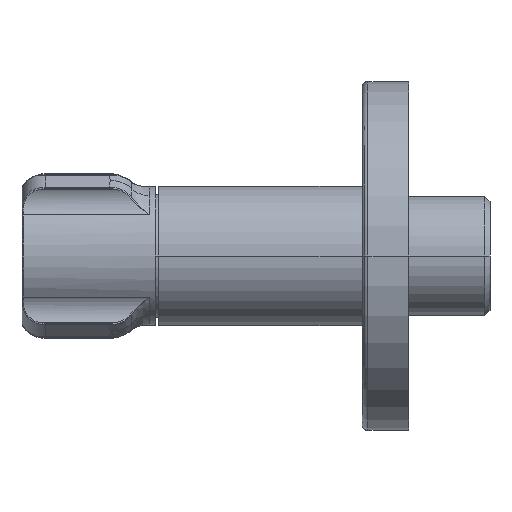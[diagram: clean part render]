
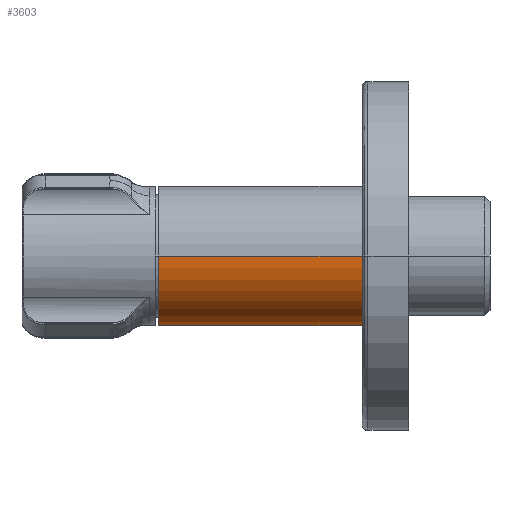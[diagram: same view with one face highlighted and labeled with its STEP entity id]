
A CAD part, left-side view. The second image highlights one B-rep face of the part: STEP entity #3603.
In plain terms, the highlighted cylindrical face has radius 12 mm (diameter 24 mm), a partial arc.
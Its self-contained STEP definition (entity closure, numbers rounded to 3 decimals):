
#577=CARTESIAN_POINT('',(12.,26.999,0.));
#578=CARTESIAN_POINT('',(12.,26.999,-0.334));
#579=CARTESIAN_POINT('',(11.972,27.048,-1.025));
#580=CARTESIAN_POINT('',(11.827,27.303,-2.134));
#581=CARTESIAN_POINT('',(11.568,27.76,-3.261));
#582=CARTESIAN_POINT('',(11.179,28.462,-4.424));
#583=CARTESIAN_POINT('',(10.634,29.476,-5.613));
#584=CARTESIAN_POINT('',(9.968,30.782,-6.718));
#585=CARTESIAN_POINT('',(9.295,32.22,-7.612));
#586=CARTESIAN_POINT('',(8.705,33.638,-8.272));
#587=CARTESIAN_POINT('',(8.217,35.01,-8.752));
#588=CARTESIAN_POINT('',(7.84,36.335,-9.088));
#589=CARTESIAN_POINT('',(7.581,37.576,-9.303));
#590=CARTESIAN_POINT('',(7.423,38.808,-9.429));
#591=CARTESIAN_POINT('',(7.39,39.606,-9.455));
#592=CARTESIAN_POINT('',(7.39,40.,-9.455));
#594=CARTESIAN_POINT('',(7.39,40.,-9.455));
#595=CARTESIAN_POINT('',(7.39,40.386,-9.455));
#596=CARTESIAN_POINT('',(7.422,41.193,-9.43));
#597=CARTESIAN_POINT('',(7.59,42.504,-9.296));
#598=CARTESIAN_POINT('',(7.902,43.929,-9.035));
#599=CARTESIAN_POINT('',(8.359,45.43,-8.62));
#600=CARTESIAN_POINT('',(8.961,47.011,-8.001));
#601=CARTESIAN_POINT('',(9.652,48.562,-7.161));
#602=CARTESIAN_POINT('',(10.31,49.896,-6.179));
#603=CARTESIAN_POINT('',(10.866,50.959,-5.137));
#604=CARTESIAN_POINT('',(11.312,51.779,-4.06));
#605=CARTESIAN_POINT('',(11.644,52.375,-2.971));
#606=CARTESIAN_POINT('',(11.863,52.761,-1.906));
#607=CARTESIAN_POINT('',(11.979,52.963,-0.901));
#608=CARTESIAN_POINT('',(12.,53.001,-0.29));
#609=CARTESIAN_POINT('',(12.,53.001,0.));
#611=DIRECTION('',(0.,1.,0.));
#612=VECTOR('',#611,3.999);
#613=CARTESIAN_POINT('',(12.,53.001,0.));
#614=LINE('',#613,#612);
#615=DIRECTION('',(0.,1.,0.));
#616=VECTOR('',#615,35.);
#617=CARTESIAN_POINT('',(-12.,22.,0.));
#618=LINE('',#617,#616);
#619=CARTESIAN_POINT('',(0.,22.,0.));
#620=DIRECTION('',(0.,1.,0.));
#621=DIRECTION('',(1.,0.,0.));
#622=AXIS2_PLACEMENT_3D('',#619,#620,#621);
#624=DIRECTION('',(0.,1.,0.));
#625=VECTOR('',#624,4.999);
#626=CARTESIAN_POINT('',(12.,22.,0.));
#627=LINE('',#626,#625);
#1849=CARTESIAN_POINT('',(0.,57.,0.));
#1850=DIRECTION('',(0.,1.,0.));
#1851=DIRECTION('',(1.,0.,0.));
#1852=AXIS2_PLACEMENT_3D('',#1849,#1850,#1851);
#1912=CARTESIAN_POINT('',(12.,53.001,0.));
#1913=VERTEX_POINT('',#1912);
#1916=CARTESIAN_POINT('',(12.,26.999,
0.));
#1917=VERTEX_POINT('',#1916);
#1918=CARTESIAN_POINT('',(-12.,22.,0.));
#1919=CARTESIAN_POINT('',(-12.,57.,0.));
#1920=VERTEX_POINT('',#1918);
#1921=VERTEX_POINT('',#1919);
#1922=CARTESIAN_POINT('',(12.,57.,0.));
#1923=VERTEX_POINT('',#1922);
#1927=VERTEX_POINT('',#592);
#1928=CARTESIAN_POINT('',(12.,22.,0.));
#1929=VERTEX_POINT('',#1928);
#3584=CARTESIAN_POINT('',(0.,61.95,0.));
#3585=DIRECTION('',(0.,-1.,0.));
#3586=DIRECTION('',(-1.,0.,0.));
#3587=AXIS2_PLACEMENT_3D('',#3584,#3585,#3586);
#3588=CYLINDRICAL_SURFACE('',#3587,12.);
#3589=ORIENTED_EDGE('',*,*,#3578,.T.);
#3590=ORIENTED_EDGE('',*,*,#3348,.T.);
#3592=ORIENTED_EDGE('',*,*,#3591,.T.);
#3594=ORIENTED_EDGE('',*,*,#3593,.T.);
#3596=ORIENTED_EDGE('',*,*,#3595,.F.);
#3598=ORIENTED_EDGE('',*,*,#3597,.F.);
#3600=ORIENTED_EDGE('',*,*,#3599,.T.);
#3601=EDGE_LOOP('',(#3589,#3590,#3592,#3594,#3596,#3598,#3600));
#3602=FACE_OUTER_BOUND('',#3601,.F.);
#3603=ADVANCED_FACE('',(#3602),#3588,.T.);
#593=B_SPLINE_CURVE_WITH_KNOTS('',3,(#577,#578,#579,#580,#581,#582,#583,#584,
#585,#586,#587,#588,#589,#590,#591,#592),.UNSPECIFIED.,.F.,.F.,(4,1,1,1,1,1,1,1,
1,1,1,1,1,4),(0.,0.077,0.154,0.231,
0.308,0.385,0.462,0.538,
0.615,0.692,0.769,0.846,
0.923,1.),.UNSPECIFIED.);
#610=B_SPLINE_CURVE_WITH_KNOTS('',3,(#594,#595,#596,#597,#598,#599,#600,#601,
#602,#603,#604,#605,#606,#607,#608,#609),.UNSPECIFIED.,.F.,.F.,(4,1,1,1,1,1,1,1,
1,1,1,1,1,4),(0.,0.077,0.154,0.231,
0.308,0.385,0.462,0.538,
0.615,0.692,0.769,0.846,
0.923,1.),.UNSPECIFIED.);
#623=CIRCLE('',#622,12.);
#1853=CIRCLE('',#1852,12.);
#3348=EDGE_CURVE('',#1927,#1913,#610,.T.);
#3578=EDGE_CURVE('',#1917,#1927,#593,.T.);
#3591=EDGE_CURVE('',#1913,#1923,#614,.T.);
#3593=EDGE_CURVE('',#1923,#1921,#1853,.T.);
#3595=EDGE_CURVE('',#1920,#1921,#618,.T.);
#3597=EDGE_CURVE('',#1929,#1920,#623,.T.);
#3599=EDGE_CURVE('',#1929,#1917,#627,.T.);
